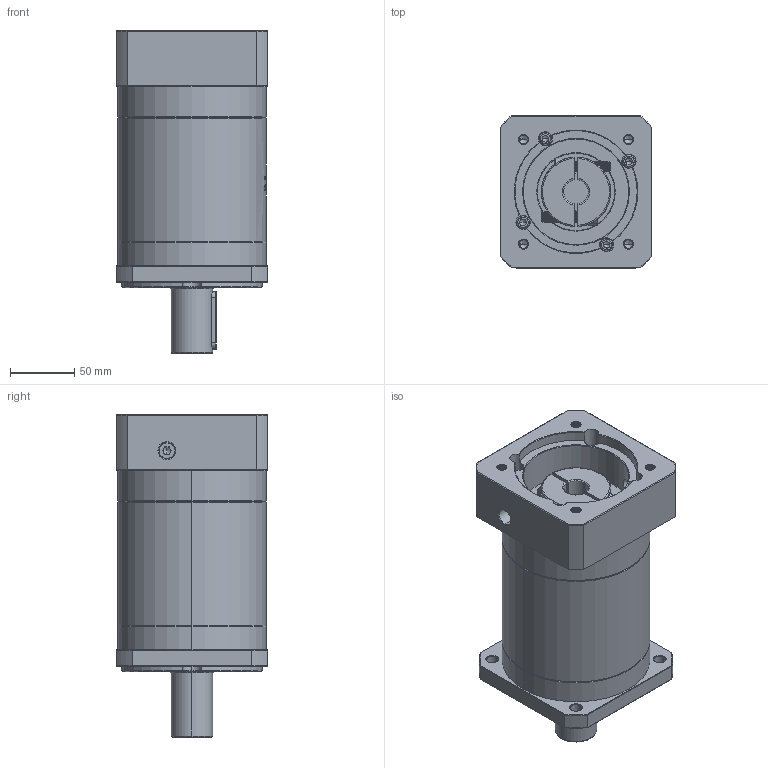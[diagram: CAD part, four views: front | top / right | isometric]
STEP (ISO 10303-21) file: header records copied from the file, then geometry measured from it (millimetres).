
FILE_DESCRIPTION (( 'STEP AP214' ), '1' );
FILE_NAME ('ZF120A-D32-L3-19-95-115-M8.step', '2023-03-07T09:34:59', ( '' ), ( '' ), 'SwSTEP 2.0', 'SolidWorks 2016', '' );
FILE_SCHEMA (( 'AUTOMOTIVE_DESIGN' ));
Length unit declared in the file: millimetre
Products named in the file (1): ZF120A-D32-L3-19-95-115-M8
Bounding box: 118 x 118 x 250.5 mm (x, y, z)
Volume: 2070986.5 mm3; surface area: 187124 mm2
Topology: 6 solids, 6 shells, 1967 faces, 5183 edges, 3310 vertices
Faces by surface type: plane 857, cylinder 429, bspline 341, cone 340
Entity records: 108168 total; most frequent: CARTESIAN_POINT 41770, ORIENTED_EDGE 10306, DIRECTION 7988, EDGE_CURVE 5153, VERTEX_POINT 3310, LINE 2758, VECTOR 2758, AXIS2_PLACEMENT_3D 2615
